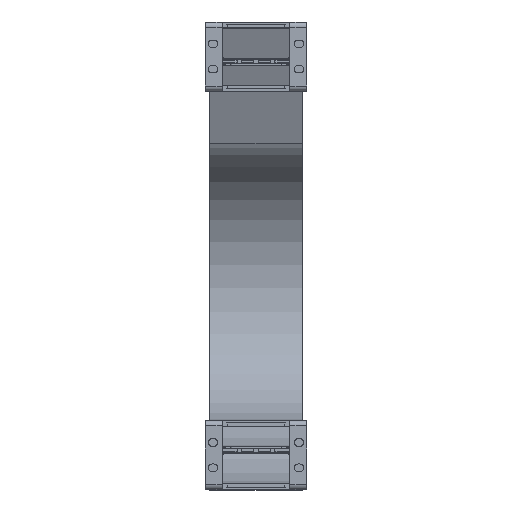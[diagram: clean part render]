
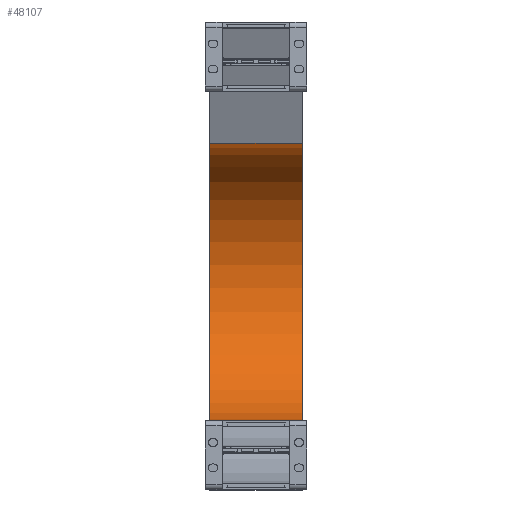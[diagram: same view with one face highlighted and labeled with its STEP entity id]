
A CAD part, top view. The second image highlights one B-rep face of the part: STEP entity #48107.
In plain terms, the highlighted cylindrical face has radius 82.5 mm (diameter 165 mm), a partial arc.
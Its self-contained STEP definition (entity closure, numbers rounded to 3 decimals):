
#47259=DIRECTION('',(-1.,0.,0.));
#47260=VECTOR('',#47259,55.);
#47261=CARTESIAN_POINT('',(27.5,41.,-400.));
#47262=LINE('',#47261,#47260);
#47273=DIRECTION('',(-1.,0.,0.));
#47274=VECTOR('',#47273,55.);
#47275=CARTESIAN_POINT('',(27.5,205.689,-407.16));
#47276=LINE('',#47275,#47274);
#47280=CARTESIAN_POINT('',(27.5,123.5,-400.));
#47281=DIRECTION('',(-1.,0.,0.));
#47282=DIRECTION('',(0.,0.996,-0.087));
#47283=AXIS2_PLACEMENT_3D('',#47280,#47281,#47282);
#47359=CARTESIAN_POINT('',(-27.5,123.5,-400.));
#47360=DIRECTION('',(-1.,0.,0.));
#47361=DIRECTION('',(0.,0.996,-0.087));
#47362=AXIS2_PLACEMENT_3D('',#47359,#47360,#47361);
#47481=CARTESIAN_POINT('',(27.5,205.689,-407.16));
#47482=CARTESIAN_POINT('',(-27.5,205.689,-407.16));
#47483=VERTEX_POINT('',#47481);
#47484=VERTEX_POINT('',#47482);
#47505=CARTESIAN_POINT('',(27.5,41.,-400.));
#47506=CARTESIAN_POINT('',(-27.5,41.,-400.));
#47507=VERTEX_POINT('',#47505);
#47508=VERTEX_POINT('',#47506);
#48093=CARTESIAN_POINT('',(1.,123.5,-400.));
#48094=DIRECTION('',(-1.,0.,0.));
#48095=DIRECTION('',(0.,-0.996,0.087));
#48096=AXIS2_PLACEMENT_3D('',#48093,#48094,#48095);
#48097=CYLINDRICAL_SURFACE('',#48096,82.5);
#48099=ORIENTED_EDGE('',*,*,#48098,.F.);
#48101=ORIENTED_EDGE('',*,*,#48100,.T.);
#48102=ORIENTED_EDGE('',*,*,#48076,.T.);
#48104=ORIENTED_EDGE('',*,*,#48103,.F.);
#48105=EDGE_LOOP('',(#48099,#48101,#48102,#48104));
#48106=FACE_OUTER_BOUND('',#48105,.F.);
#47284=CIRCLE('',#47283,82.5);
#47363=CIRCLE('',#47362,82.5);
#48076=EDGE_CURVE('',#47507,#47508,#47262,.T.);
#48098=EDGE_CURVE('',#47483,#47484,#47276,.T.);
#48100=EDGE_CURVE('',#47483,#47507,#47284,.T.);
#48103=EDGE_CURVE('',#47484,#47508,#47363,.T.);
#48107=ADVANCED_FACE('',(#48106),#48097,.F.);
